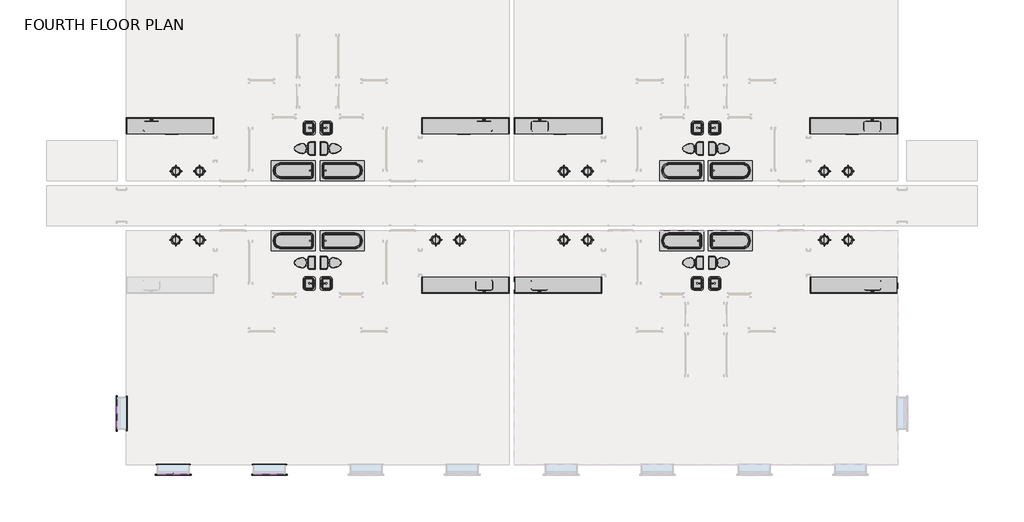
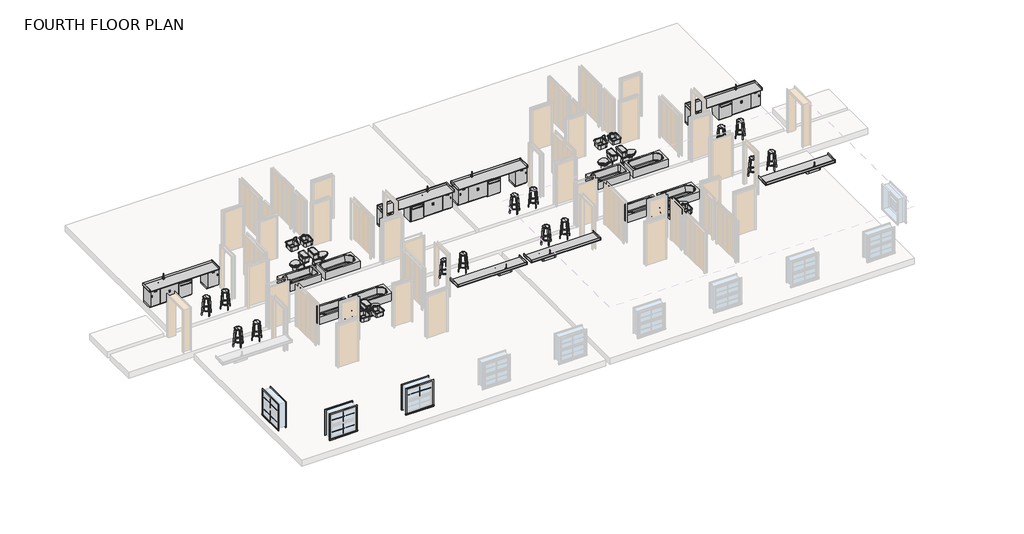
# One storey, part 2 of 3: 33 furniture elements, 31 flow terminals, 15 proxies.
"""IFC4 building model written with IfcOpenShell, lengths in millimetres."""

from ifc_helpers import new_model, si_unit, origin, place, context, project, spatial, transform, mapped, element, save
from components import k2515_dishwasher_household_k2515_dishwasher_household_cf2658f5, k2515_dishwasher_household_k2515_dishwasher_household_46c228bc, muntin_pattern_2x2_muntin_pattern_2x2_770224b8, muntin_pattern_2x2_muntin_pattern_2x2_cf99dd86, trim_window_exterior_flat_with_sill_ac84ebb5, trim_window_interior_flat_picture_frame_caf2db4f, lsy_sink_1a_065a4558, lsy_sink_1a_83b20bf5, flow_terminal_62a433f7, flow_terminal_4d0de4d3, toilet_domestic_3d_toilet_domestic_3d_f7549cf7, toilet_domestic_3d_toilet_domestic_3d_183bbd19, toilet_domestic_3d_toilet_domestic_3d_a08e12bc, toilet_domestic_3d_toilet_domestic_3d_5530cc89, tub_rectangular_3d_tub_rectangular_3d_2253513b, tub_rectangular_3d_tub_rectangular_3d_4e1d8e59, hb12_hb12_18_68083de8, hb12_hb12_18_c50c6706, hb12_hb12_21_dfdbf895, hb12_hb12_21_72806c5e, lsy_bench_top_24dx36h_e849d271, lsy_bench_top_24dx36h_08832318, lsy_bench_top_24dx36h_2ddf329b, lsy_bench_top_24dx36h_1d034a2a, lab_stool_lab_stool_8e3c4d68, lab_stool_lab_stool_061d08b2, sb02_sb2_36_93bd8c5c, sb02_sb2_36_312036f5

model = new_model("IFC4")

# Units and contexts
model_context = context("Model", 3, world=origin())
ifc_project = project(units=[si_unit("LENGTHUNIT", "METRE", prefix="MILLI")], contexts=[model_context])

# Site, building, storey
site = spatial("IfcSite", under=ifc_project)
building = spatial("IfcBuilding", under=site)
storey = spatial("IfcBuildingStorey", under=building, Name="FOURTH FLOOR PLAN", Elevation=8534.4)

# Proxies
placement = place(None, origin())
k2515_dishwasher_household_k2515_dishwasher_household_shape = k2515_dishwasher_household_k2515_dishwasher_household_cf2658f5(model_context)
element("IfcBuildingElementProxy", 1, Name="K2515 - Dishwasher, Household : K2515 - Dishwasher, Household", ObjectType="K2515 - Dishwasher, Household : K2515 - Dishwasher, Household", at=placement, inside=storey, context=model_context, shape_type="MappedRepresentation", body=[
    mapped(k2515_dishwasher_household_k2515_dishwasher_household_shape, transform((-3453.9790125, 8530.5137881, 8534.4), x_axis=(1.0, 0.0, 0.0), y_axis=(0.0, 1.0, 0.0), z_axis=(0.0, 0.0, 1.0))),
])
element("IfcBuildingElementProxy", 2, Name="K2515 - Dishwasher, Household : K2515 - Dishwasher, Household", ObjectType="K2515 - Dishwasher, Household : K2515 - Dishwasher, Household", at=placement, inside=storey, context=model_context, shape_type="MappedRepresentation", body=[
    mapped(k2515_dishwasher_household_k2515_dishwasher_household_shape, transform((11370.4209875, 8530.5137881, 8534.4), x_axis=(1.0, 0.0, 0.0), y_axis=(0.0, 1.0, 0.0), z_axis=(0.0, 0.0, 1.0))),
])
k2515_dishwasher_household_k2515_dishwasher_household_2_shape = k2515_dishwasher_household_k2515_dishwasher_household_46c228bc(model_context)
element("IfcBuildingElementProxy", 3, Name="K2515 - Dishwasher, Household : K2515 - Dishwasher, Household", ObjectType="K2515 - Dishwasher, Household : K2515 - Dishwasher, Household", at=placement, inside=storey, context=model_context, shape_type="MappedRepresentation", body=[
    mapped(k2515_dishwasher_household_k2515_dishwasher_household_2_shape, transform((7690.5959875, 8530.5137881, 8534.4), x_axis=(-1.0, 0.0, 0.0), y_axis=(0.0, -1.0, 0.0), z_axis=(0.0, 0.0, 1.0))),
])
element("IfcBuildingElementProxy", 4, Name="K2515 - Dishwasher, Household : K2515 - Dishwasher, Household", ObjectType="K2515 - Dishwasher, Household : K2515 - Dishwasher, Household", at=placement, inside=storey, context=model_context, shape_type="MappedRepresentation", body=[
    mapped(k2515_dishwasher_household_k2515_dishwasher_household_2_shape, transform((22514.9959875, 8530.5137881, 8534.4), x_axis=(-1.0, 0.0, 0.0), y_axis=(0.0, -1.0, 0.0), z_axis=(0.0, 0.0, 1.0))),
])
muntin_pattern_2x2_muntin_pattern_2x2_shape = muntin_pattern_2x2_muntin_pattern_2x2_770224b8(model_context)
element("IfcBuildingElementProxy", 5, Name="Muntin Pattern_2x2 : Muntin Pattern_2x2", ObjectType="Muntin Pattern_2x2 : Muntin Pattern_2x2", at=placement, inside=storey, context=model_context, shape_type="MappedRepresentation", body=[
    mapped(muntin_pattern_2x2_muntin_pattern_2x2_shape, transform((-5537.3665125, -2431.3796179, 10128.25), x_axis=(0.0, -1.0, 0.0), y_axis=(1.0, 0.0, 0.0), z_axis=(0.0, 0.0, 1.0))),
])
element("IfcBuildingElementProxy", 6, Name="Muntin Pattern_2x2 : Muntin Pattern_2x2", ObjectType="Muntin Pattern_2x2 : Muntin Pattern_2x2", at=placement, inside=storey, context=model_context, shape_type="MappedRepresentation", body=[
    mapped(muntin_pattern_2x2_muntin_pattern_2x2_shape, transform((-3399.0477625, -4742.0612119, 10128.25), x_axis=(1.0, 0.0, 0.0), y_axis=(0.0, 1.0, 0.0), z_axis=(0.0, 0.0, 1.0))),
])
element("IfcBuildingElementProxy", 7, Name="Muntin Pattern_2x2 : Muntin Pattern_2x2", ObjectType="Muntin Pattern_2x2 : Muntin Pattern_2x2", at=placement, inside=storey, context=model_context, shape_type="MappedRepresentation", body=[
    mapped(muntin_pattern_2x2_muntin_pattern_2x2_shape, transform((271.9647375, -4742.0612119, 10128.25), x_axis=(1.0, 0.0, 0.0), y_axis=(0.0, 1.0, 0.0), z_axis=(0.0, 0.0, 1.0))),
])
muntin_pattern_2x2_muntin_pattern_2x2_2_shape = muntin_pattern_2x2_muntin_pattern_2x2_cf99dd86(model_context)
element("IfcBuildingElementProxy", 8, Name="Muntin Pattern_2x2 : Muntin Pattern_2x2", ObjectType="Muntin Pattern_2x2 : Muntin Pattern_2x2", at=placement, inside=storey, context=model_context, shape_type="MappedRepresentation", body=[
    mapped(muntin_pattern_2x2_muntin_pattern_2x2_2_shape, transform((-5537.3665125, -2431.3796179, 9518.65), x_axis=(0.0, -1.0, 0.0), y_axis=(1.0, 0.0, 0.0), z_axis=(0.0, 0.0, 1.0))),
])
element("IfcBuildingElementProxy", 9, Name="Muntin Pattern_2x2 : Muntin Pattern_2x2", ObjectType="Muntin Pattern_2x2 : Muntin Pattern_2x2", at=placement, inside=storey, context=model_context, shape_type="MappedRepresentation", body=[
    mapped(muntin_pattern_2x2_muntin_pattern_2x2_2_shape, transform((-3399.0477625, -4742.0612119, 9518.65), x_axis=(1.0, 0.0, 0.0), y_axis=(0.0, 1.0, 0.0), z_axis=(0.0, 0.0, 1.0))),
])
trim_window_exterior_flat_with_sill_shape = trim_window_exterior_flat_with_sill_ac84ebb5(model_context)
element("IfcBuildingElementProxy", 10, Name="Trim-Window-Exterior-Flat : with Sill", ObjectType="Trim-Window-Exterior-Flat : with Sill", at=placement, inside=storey, context=model_context, shape_type="MappedRepresentation", body=[
    mapped(trim_window_exterior_flat_with_sill_shape, transform((-5546.8915125, -2431.3796179, 10668.0), x_axis=(0.0, 1.0, 0.0), y_axis=(0.0, 0.0, -1.0), z_axis=(-1.0, 0.0, 0.0))),
])
element("IfcBuildingElementProxy", 11, Name="Trim-Window-Exterior-Flat : with Sill", ObjectType="Trim-Window-Exterior-Flat : with Sill", at=placement, inside=storey, context=model_context, shape_type="MappedRepresentation", body=[
    mapped(trim_window_exterior_flat_with_sill_shape, transform((-3399.0477625, -4751.5862119, 10668.0), x_axis=(-1.0, 0.0, 0.0), y_axis=(0.0, 0.0, -1.0), z_axis=(0.0, -1.0, 0.0))),
])
element("IfcBuildingElementProxy", 12, Name="Trim-Window-Exterior-Flat : with Sill", ObjectType="Trim-Window-Exterior-Flat : with Sill", at=placement, inside=storey, context=model_context, shape_type="MappedRepresentation", body=[
    mapped(trim_window_exterior_flat_with_sill_shape, transform((271.9647375, -4751.5862119, 10668.0), x_axis=(-1.0, 0.0, 0.0), y_axis=(0.0, 0.0, -1.0), z_axis=(0.0, -1.0, 0.0))),
])
trim_window_interior_flat_picture_frame_shape = trim_window_interior_flat_picture_frame_caf2db4f(model_context)
element("IfcBuildingElementProxy", 13, Name="Trim-Window-Interior-Flat : Picture Frame", ObjectType="Trim-Window-Interior-Flat : Picture Frame", at=placement, inside=storey, context=model_context, shape_type="MappedRepresentation", body=[
    mapped(trim_window_interior_flat_picture_frame_shape, transform((-5196.8915125, -2431.3796179, 10668.0), x_axis=(0.0, -1.0, 0.0), y_axis=(0.0, 0.0, -1.0), z_axis=(1.0, 0.0, 0.0))),
])
element("IfcBuildingElementProxy", 14, Name="Trim-Window-Interior-Flat : Picture Frame", ObjectType="Trim-Window-Interior-Flat : Picture Frame", at=placement, inside=storey, context=model_context, shape_type="MappedRepresentation", body=[
    mapped(trim_window_interior_flat_picture_frame_shape, transform((-3399.0477625, -4401.5862119, 10668.0), x_axis=(1.0, 0.0, 0.0), y_axis=(0.0, 0.0, -1.0), z_axis=(0.0, 1.0, 0.0))),
])
element("IfcBuildingElementProxy", 15, Name="Trim-Window-Interior-Flat : Picture Frame", ObjectType="Trim-Window-Interior-Flat : Picture Frame", at=placement, inside=storey, context=model_context, shape_type="MappedRepresentation", body=[
    mapped(trim_window_interior_flat_picture_frame_shape, transform((271.9647375, -4401.5862119, 10668.0), x_axis=(1.0, 0.0, 0.0), y_axis=(0.0, 0.0, -1.0), z_axis=(0.0, 1.0, 0.0))),
])

# Flow terminals
lsy_sink_1a_shape = lsy_sink_1a_065a4558(model_context)
element("IfcFlowTerminal", 16, ObjectType="LSY_Sink_1A : 25\"W x 15\"D", at=placement, inside=storey, context=model_context, shape_type="MappedRepresentation", body=[
    mapped(lsy_sink_1a_shape, transform((-4245.7932531, 8626.5933869, 8496.3), x_axis=(1.0, 0.0, 0.0), y_axis=(0.0, 1.0, 0.0), z_axis=(0.0, 0.0, 1.0))),
])
element("IfcFlowTerminal", 17, ObjectType="LSY_Sink_1A : 25\"W x 15\"D", at=placement, inside=storey, context=model_context, shape_type="MappedRepresentation", body=[
    mapped(lsy_sink_1a_shape, transform((8488.922728, 2373.0341892, 8496.3), x_axis=(-1.0, 0.0, 0.0), y_axis=(0.0, -1.0, 0.0), z_axis=(0.0, 0.0, 1.0))),
])
element("IfcFlowTerminal", 18, ObjectType="LSY_Sink_1A : 25\"W x 15\"D", at=placement, inside=storey, context=model_context, shape_type="MappedRepresentation", body=[
    mapped(lsy_sink_1a_shape, transform((10578.6067469, 8626.5933869, 8496.3), x_axis=(1.0, 0.0, 0.0), y_axis=(0.0, 1.0, 0.0), z_axis=(0.0, 0.0, 1.0))),
])
element("IfcFlowTerminal", 19, ObjectType="LSY_Sink_1A : 25\"W x 15\"D", at=placement, inside=storey, context=model_context, shape_type="MappedRepresentation", body=[
    mapped(lsy_sink_1a_shape, transform((23313.322728, 2373.0341892, 8496.3), x_axis=(-1.0, 0.0, 0.0), y_axis=(0.0, -1.0, 0.0), z_axis=(0.0, 0.0, 1.0))),
])
lsy_sink_1a_2_shape = lsy_sink_1a_83b20bf5(model_context)
element("IfcFlowTerminal", 20, ObjectType="LSY_Sink_1A : 25\"W x 15\"D", at=placement, inside=storey, context=model_context, shape_type="MappedRepresentation", body=[
    mapped(lsy_sink_1a_2_shape, transform((8482.410228, 8626.5933869, 8496.3), x_axis=(-1.0, 0.0, 0.0), y_axis=(0.0, -1.0, 0.0), z_axis=(0.0, 0.0, 1.0))),
])
element("IfcFlowTerminal", 21, ObjectType="LSY_Sink_1A : 25\"W x 15\"D", at=placement, inside=storey, context=model_context, shape_type="MappedRepresentation", body=[
    mapped(lsy_sink_1a_2_shape, transform((10572.0942469, 2373.0341892, 8496.3), x_axis=(1.0, 0.0, 0.0), y_axis=(0.0, 1.0, 0.0), z_axis=(0.0, 0.0, 1.0))),
])
element("IfcFlowTerminal", 22, ObjectType="LSY_Sink_1A : 25\"W x 15\"D", at=placement, inside=storey, context=model_context, shape_type="MappedRepresentation", body=[
    mapped(lsy_sink_1a_2_shape, transform((23306.810228, 8626.5933869, 8496.3), x_axis=(-1.0, 0.0, 0.0), y_axis=(0.0, -1.0, 0.0), z_axis=(0.0, 0.0, 1.0))),
])
flow_terminal_shape = flow_terminal_62a433f7(model_context)
element("IfcFlowTerminal", 23, ObjectType="Sink Vanity-Square : 20\" x 18\"", at=placement, inside=storey, context=model_context, shape_type="MappedRepresentation", body=[
    mapped(flow_terminal_shape, transform((1841.1630863, 2548.3030286, 8534.4), x_axis=(0.0, -1.0, 0.0), y_axis=(1.0, 0.0, 0.0), z_axis=(0.0, 0.0, 1.0))),
])
element("IfcFlowTerminal", 24, ObjectType="Sink Vanity-Square : 20\" x 18\"", at=placement, inside=storey, context=model_context, shape_type="MappedRepresentation", body=[
    mapped(flow_terminal_shape, transform((2395.4538886, 2516.9245475, 8534.4), x_axis=(0.0, 1.0, 0.0), y_axis=(-1.0, 0.0, 0.0), z_axis=(0.0, 0.0, 1.0))),
])
element("IfcFlowTerminal", 25, ObjectType="Sink Vanity-Square : 20\" x 18\"", at=placement, inside=storey, context=model_context, shape_type="MappedRepresentation", body=[
    mapped(flow_terminal_shape, transform((16665.1630863, 2548.3030286, 8534.4), x_axis=(0.0, -1.0, 0.0), y_axis=(1.0, 0.0, 0.0), z_axis=(0.0, 0.0, 1.0))),
])
element("IfcFlowTerminal", 26, ObjectType="Sink Vanity-Square : 20\" x 18\"", at=placement, inside=storey, context=model_context, shape_type="MappedRepresentation", body=[
    mapped(flow_terminal_shape, transform((17219.4538886, 2516.9245475, 8534.4), x_axis=(0.0, 1.0, 0.0), y_axis=(-1.0, 0.0, 0.0), z_axis=(0.0, 0.0, 1.0))),
])
flow_terminal_2_shape = flow_terminal_4d0de4d3(model_context)
element("IfcFlowTerminal", 27, ObjectType="Sink Vanity-Square : 20\" x 18\"", at=placement, inside=storey, context=model_context, shape_type="MappedRepresentation", body=[
    mapped(flow_terminal_2_shape, transform((16665.1630863, 8451.3245475, 8534.4), x_axis=(0.0, 1.0, 0.0), y_axis=(-1.0, 0.0, 0.0), z_axis=(0.0, 0.0, 1.0))),
])
element("IfcFlowTerminal", 28, ObjectType="Sink Vanity-Square : 20\" x 18\"", at=placement, inside=storey, context=model_context, shape_type="MappedRepresentation", body=[
    mapped(flow_terminal_2_shape, transform((17219.4538886, 8482.7030286, 8534.4), x_axis=(0.0, -1.0, 0.0), y_axis=(1.0, 0.0, 0.0), z_axis=(0.0, 0.0, 1.0))),
])
element("IfcFlowTerminal", 29, ObjectType="Sink Vanity-Square : 20\" x 18\"", at=placement, inside=storey, context=model_context, shape_type="MappedRepresentation", body=[
    mapped(flow_terminal_2_shape, transform((1841.1630863, 8451.3245475, 8534.4), x_axis=(0.0, 1.0, 0.0), y_axis=(-1.0, 0.0, 0.0), z_axis=(0.0, 0.0, 1.0))),
])
element("IfcFlowTerminal", 30, ObjectType="Sink Vanity-Square : 20\" x 18\"", at=placement, inside=storey, context=model_context, shape_type="MappedRepresentation", body=[
    mapped(flow_terminal_2_shape, transform((2395.4538886, 8482.7030286, 8534.4), x_axis=(0.0, -1.0, 0.0), y_axis=(1.0, 0.0, 0.0), z_axis=(0.0, 0.0, 1.0))),
])
toilet_domestic_3d_toilet_domestic_3d_shape = toilet_domestic_3d_toilet_domestic_3d_f7549cf7(model_context)
toilet_domestic_3d_toilet_domestic_3d_2_shape = toilet_domestic_3d_toilet_domestic_3d_183bbd19(model_context)
element("IfcFlowTerminal", 31, ObjectType="Toilet-Domestic-3D : Toilet-Domestic-3D", at=placement, inside=storey, context=model_context, shape_type="MappedRepresentation", body=[
    mapped(toilet_domestic_3d_toilet_domestic_3d_shape, transform((1526.6124601, 3320.0137881, 8534.4), x_axis=(0.0, -1.0, 0.0), y_axis=(1.0, 0.0, 0.0), z_axis=(0.0, 0.0, 1.0))),
    mapped(toilet_domestic_3d_toilet_domestic_3d_2_shape, transform((1526.6124601, 3320.0137881, 8534.4), x_axis=(0.0, -1.0, 0.0), y_axis=(1.0, 0.0, 0.0), z_axis=(0.0, 0.0, 1.0))),
])
element("IfcFlowTerminal", 32, ObjectType="Toilet-Domestic-3D : Toilet-Domestic-3D", at=placement, inside=storey, context=model_context, shape_type="MappedRepresentation", body=[
    mapped(toilet_domestic_3d_toilet_domestic_3d_shape, transform((2710.0045148, 3320.0137881, 8534.4), x_axis=(0.0, 1.0, 0.0), y_axis=(-1.0, 0.0, 0.0), z_axis=(0.0, 0.0, 1.0))),
    mapped(toilet_domestic_3d_toilet_domestic_3d_2_shape, transform((2710.0045148, 3320.0137881, 8534.4), x_axis=(0.0, 1.0, 0.0), y_axis=(-1.0, 0.0, 0.0), z_axis=(0.0, 0.0, 1.0))),
])
element("IfcFlowTerminal", 33, ObjectType="Toilet-Domestic-3D : Toilet-Domestic-3D", at=placement, inside=storey, context=model_context, shape_type="MappedRepresentation", body=[
    mapped(toilet_domestic_3d_toilet_domestic_3d_shape, transform((16350.6124601, 3320.0137881, 8534.4), x_axis=(0.0, -1.0, 0.0), y_axis=(1.0, 0.0, 0.0), z_axis=(0.0, 0.0, 1.0))),
    mapped(toilet_domestic_3d_toilet_domestic_3d_2_shape, transform((16350.6124601, 3320.0137881, 8534.4), x_axis=(0.0, -1.0, 0.0), y_axis=(1.0, 0.0, 0.0), z_axis=(0.0, 0.0, 1.0))),
])
element("IfcFlowTerminal", 34, ObjectType="Toilet-Domestic-3D : Toilet-Domestic-3D", at=placement, inside=storey, context=model_context, shape_type="MappedRepresentation", body=[
    mapped(toilet_domestic_3d_toilet_domestic_3d_shape, transform((17534.0045148, 3320.0137881, 8534.4), x_axis=(0.0, 1.0, 0.0), y_axis=(-1.0, 0.0, 0.0), z_axis=(0.0, 0.0, 1.0))),
    mapped(toilet_domestic_3d_toilet_domestic_3d_2_shape, transform((17534.0045148, 3320.0137881, 8534.4), x_axis=(0.0, 1.0, 0.0), y_axis=(-1.0, 0.0, 0.0), z_axis=(0.0, 0.0, 1.0))),
])
toilet_domestic_3d_toilet_domestic_3d_3_shape = toilet_domestic_3d_toilet_domestic_3d_a08e12bc(model_context)
toilet_domestic_3d_toilet_domestic_3d_4_shape = toilet_domestic_3d_toilet_domestic_3d_5530cc89(model_context)
element("IfcFlowTerminal", 35, ObjectType="Toilet-Domestic-3D : Toilet-Domestic-3D", at=placement, inside=storey, context=model_context, shape_type="MappedRepresentation", body=[
    mapped(toilet_domestic_3d_toilet_domestic_3d_3_shape, transform((16350.6124601, 7679.6137881, 8534.4), x_axis=(0.0, 1.0, 0.0), y_axis=(-1.0, 0.0, 0.0), z_axis=(0.0, 0.0, 1.0))),
    mapped(toilet_domestic_3d_toilet_domestic_3d_4_shape, transform((16350.6124601, 7679.6137881, 8534.4), x_axis=(0.0, 1.0, 0.0), y_axis=(-1.0, 0.0, 0.0), z_axis=(0.0, 0.0, 1.0))),
])
element("IfcFlowTerminal", 36, ObjectType="Toilet-Domestic-3D : Toilet-Domestic-3D", at=placement, inside=storey, context=model_context, shape_type="MappedRepresentation", body=[
    mapped(toilet_domestic_3d_toilet_domestic_3d_3_shape, transform((17534.0045148, 7679.6137881, 8534.4), x_axis=(0.0, -1.0, 0.0), y_axis=(1.0, 0.0, 0.0), z_axis=(0.0, 0.0, 1.0))),
    mapped(toilet_domestic_3d_toilet_domestic_3d_4_shape, transform((17534.0045148, 7679.6137881, 8534.4), x_axis=(0.0, -1.0, 0.0), y_axis=(1.0, 0.0, 0.0), z_axis=(0.0, 0.0, 1.0))),
])
element("IfcFlowTerminal", 37, ObjectType="Toilet-Domestic-3D : Toilet-Domestic-3D", at=placement, inside=storey, context=model_context, shape_type="MappedRepresentation", body=[
    mapped(toilet_domestic_3d_toilet_domestic_3d_3_shape, transform((1526.6124601, 7679.6137881, 8534.4), x_axis=(0.0, 1.0, 0.0), y_axis=(-1.0, 0.0, 0.0), z_axis=(0.0, 0.0, 1.0))),
    mapped(toilet_domestic_3d_toilet_domestic_3d_4_shape, transform((1526.6124601, 7679.6137881, 8534.4), x_axis=(0.0, 1.0, 0.0), y_axis=(-1.0, 0.0, 0.0), z_axis=(0.0, 0.0, 1.0))),
])
element("IfcFlowTerminal", 38, ObjectType="Toilet-Domestic-3D : Toilet-Domestic-3D", at=placement, inside=storey, context=model_context, shape_type="MappedRepresentation", body=[
    mapped(toilet_domestic_3d_toilet_domestic_3d_3_shape, transform((2710.0045148, 7679.6137881, 8534.4), x_axis=(0.0, -1.0, 0.0), y_axis=(1.0, 0.0, 0.0), z_axis=(0.0, 0.0, 1.0))),
    mapped(toilet_domestic_3d_toilet_domestic_3d_4_shape, transform((2710.0045148, 7679.6137881, 8534.4), x_axis=(0.0, -1.0, 0.0), y_axis=(1.0, 0.0, 0.0), z_axis=(0.0, 0.0, 1.0))),
])
tub_rectangular_3d_tub_rectangular_3d_shape = tub_rectangular_3d_tub_rectangular_3d_2253513b(model_context)
element("IfcFlowTerminal", 39, ObjectType="Tub-Rectangular-3D : Tub-Rectangular-3D", at=placement, inside=storey, context=model_context, shape_type="MappedRepresentation", body=[
    mapped(tub_rectangular_3d_tub_rectangular_3d_shape, transform((3322.7364562, 4636.2137881, 8534.4), x_axis=(1.0, 0.0, 0.0), y_axis=(0.0, 1.0, 0.0), z_axis=(0.0, 0.0, 1.0))),
])
element("IfcFlowTerminal", 40, ObjectType="Tub-Rectangular-3D : Tub-Rectangular-3D", at=placement, inside=storey, context=model_context, shape_type="MappedRepresentation", body=[
    mapped(tub_rectangular_3d_tub_rectangular_3d_shape, transform((18146.7364562, 4636.2137881, 8534.4), x_axis=(1.0, 0.0, 0.0), y_axis=(0.0, 1.0, 0.0), z_axis=(0.0, 0.0, 1.0))),
])
element("IfcFlowTerminal", 41, ObjectType="Tub-Rectangular-3D : Tub-Rectangular-3D", at=placement, inside=storey, context=model_context, shape_type="MappedRepresentation", body=[
    mapped(tub_rectangular_3d_tub_rectangular_3d_shape, transform((15737.8805188, 6363.4137881, 8534.4), x_axis=(-1.0, 0.0, 0.0), y_axis=(0.0, -1.0, 0.0), z_axis=(0.0, 0.0, 1.0))),
])
element("IfcFlowTerminal", 42, ObjectType="Tub-Rectangular-3D : Tub-Rectangular-3D", at=placement, inside=storey, context=model_context, shape_type="MappedRepresentation", body=[
    mapped(tub_rectangular_3d_tub_rectangular_3d_shape, transform((913.8805188, 6363.4137881, 8534.4), x_axis=(-1.0, 0.0, 0.0), y_axis=(0.0, -1.0, 0.0), z_axis=(0.0, 0.0, 1.0))),
])
tub_rectangular_3d_tub_rectangular_3d_2_shape = tub_rectangular_3d_tub_rectangular_3d_4e1d8e59(model_context)
element("IfcFlowTerminal", 43, ObjectType="Tub-Rectangular-3D : Tub-Rectangular-3D", at=placement, inside=storey, context=model_context, shape_type="MappedRepresentation", body=[
    mapped(tub_rectangular_3d_tub_rectangular_3d_2_shape, transform((910.7055188, 4636.2137881, 8534.4), x_axis=(-1.0, 0.0, 0.0), y_axis=(0.0, -1.0, 0.0), z_axis=(0.0, 0.0, 1.0))),
])
element("IfcFlowTerminal", 44, ObjectType="Tub-Rectangular-3D : Tub-Rectangular-3D", at=placement, inside=storey, context=model_context, shape_type="MappedRepresentation", body=[
    mapped(tub_rectangular_3d_tub_rectangular_3d_2_shape, transform((15738.2805188, 4636.2137881, 8534.4), x_axis=(-1.0, 0.0, 0.0), y_axis=(0.0, -1.0, 0.0), z_axis=(0.0, 0.0, 1.0))),
])
element("IfcFlowTerminal", 45, ObjectType="Tub-Rectangular-3D : Tub-Rectangular-3D", at=placement, inside=storey, context=model_context, shape_type="MappedRepresentation", body=[
    mapped(tub_rectangular_3d_tub_rectangular_3d_2_shape, transform((18146.7364562, 6363.4137881, 8534.4), x_axis=(1.0, 0.0, 0.0), y_axis=(0.0, 1.0, 0.0), z_axis=(0.0, 0.0, 1.0))),
])
element("IfcFlowTerminal", 46, ObjectType="Tub-Rectangular-3D : Tub-Rectangular-3D", at=placement, inside=storey, context=model_context, shape_type="MappedRepresentation", body=[
    mapped(tub_rectangular_3d_tub_rectangular_3d_2_shape, transform((3322.7364562, 6363.4137881, 8534.4), x_axis=(1.0, 0.0, 0.0), y_axis=(0.0, 1.0, 0.0), z_axis=(0.0, 0.0, 1.0))),
])

# Furniture
hb12_hb12_18_shape = hb12_hb12_18_68083de8(model_context)
element("IfcFurniture", 47, ObjectType="HB12 : HB12-18", at=placement, inside=storey, context=model_context, shape_type="MappedRepresentation", body=[
    mapped(hb12_hb12_18_shape, transform((9119.6582825, 8848.0137881, 8534.4), x_axis=(1.0, 0.0, 0.0), y_axis=(0.0, 1.0, 0.0), z_axis=(0.0, 0.0, 1.0))),
])
element("IfcFurniture", 48, ObjectType="HB12 : HB12-18", at=placement, inside=storey, context=model_context, shape_type="MappedRepresentation", body=[
    mapped(hb12_hb12_18_shape, transform((23944.0582825, 8848.0137881, 8534.4), x_axis=(1.0, 0.0, 0.0), y_axis=(0.0, 1.0, 0.0), z_axis=(0.0, 0.0, 1.0))),
])
hb12_hb12_18_2_shape = hb12_hb12_18_c50c6706(model_context)
element("IfcFurniture", 49, ObjectType="HB12 : HB12-18", at=placement, inside=storey, context=model_context, shape_type="MappedRepresentation", body=[
    mapped(hb12_hb12_18_2_shape, transform((-4883.0413076, 8848.0137881, 8534.4), x_axis=(-1.0, 0.0, 0.0), y_axis=(0.0, -1.0, 0.0), z_axis=(0.0, 0.0, 1.0))),
])
element("IfcFurniture", 50, ObjectType="HB12 : HB12-18", at=placement, inside=storey, context=model_context, shape_type="MappedRepresentation", body=[
    mapped(hb12_hb12_18_2_shape, transform((9941.3586924, 8848.0137881, 8534.4), x_axis=(-1.0, 0.0, 0.0), y_axis=(0.0, -1.0, 0.0), z_axis=(0.0, 0.0, 1.0))),
])
hb12_hb12_21_shape = hb12_hb12_21_dfdbf895(model_context)
element("IfcFurniture", 51, ObjectType="HB12 : HB12-21", at=placement, inside=storey, context=model_context, shape_type="MappedRepresentation", body=[
    mapped(hb12_hb12_21_shape, transform((-2140.8042175, 8848.0137881, 8534.4), x_axis=(1.0, 0.0, 0.0), y_axis=(0.0, 1.0, 0.0), z_axis=(0.0, 0.0, 1.0))),
])
element("IfcFurniture", 52, ObjectType="HB12 : HB12-21", at=placement, inside=storey, context=model_context, shape_type="MappedRepresentation", body=[
    mapped(hb12_hb12_21_shape, transform((12683.5957825, 8848.0137881, 8534.4), x_axis=(1.0, 0.0, 0.0), y_axis=(0.0, 1.0, 0.0), z_axis=(0.0, 0.0, 1.0))),
])
hb12_hb12_21_2_shape = hb12_hb12_21_72806c5e(model_context)
element("IfcFurniture", 53, ObjectType="HB12 : HB12-21", at=placement, inside=storey, context=model_context, shape_type="MappedRepresentation", body=[
    mapped(hb12_hb12_21_2_shape, transform((6377.4211924, 8848.0137881, 8534.4), x_axis=(-1.0, 0.0, 0.0), y_axis=(0.0, -1.0, 0.0), z_axis=(0.0, 0.0, 1.0))),
])
element("IfcFurniture", 54, ObjectType="HB12 : HB12-21", at=placement, inside=storey, context=model_context, shape_type="MappedRepresentation", body=[
    mapped(hb12_hb12_21_2_shape, transform((21201.8211924, 8848.0137881, 8534.4), x_axis=(-1.0, 0.0, 0.0), y_axis=(0.0, -1.0, 0.0), z_axis=(0.0, 0.0, 1.0))),
])
lsy_bench_top_24dx36h_shape = lsy_bench_top_24dx36h_e849d271(model_context)
element("IfcFurniture", 55, ObjectType="LSY_Bench Top : 24Dx36H", at=placement, inside=storey, context=model_context, shape_type="MappedRepresentation", body=[
    mapped(lsy_bench_top_24dx36h_shape, transform((-3049.3163076, 9463.0137881, 8521.7), x_axis=(-1.0, 0.0, 0.0), y_axis=(0.0, -1.0, 0.0), z_axis=(0.0, 0.0, 1.0))),
])
element("IfcFurniture", 56, ObjectType="LSY_Bench Top : 24Dx36H", at=placement, inside=storey, context=model_context, shape_type="MappedRepresentation", body=[
    mapped(lsy_bench_top_24dx36h_shape, transform((11775.0836924, 9463.0137881, 8521.7), x_axis=(-1.0, 0.0, 0.0), y_axis=(0.0, -1.0, 0.0), z_axis=(0.0, 0.0, 1.0))),
])
lsy_bench_top_24dx36h_2_shape = lsy_bench_top_24dx36h_08832318(model_context)
element("IfcFurniture", 57, ObjectType="LSY_Bench Top : 24Dx36H", at=placement, inside=storey, context=model_context, shape_type="MappedRepresentation", body=[
    mapped(lsy_bench_top_24dx36h_2_shape, transform((7285.9332825, 9463.0137881, 8521.7), x_axis=(1.0, 0.0, 0.0), y_axis=(0.0, 1.0, 0.0), z_axis=(0.0, 0.0, 1.0))),
])
element("IfcFurniture", 58, ObjectType="LSY_Bench Top : 24Dx36H", at=placement, inside=storey, context=model_context, shape_type="MappedRepresentation", body=[
    mapped(lsy_bench_top_24dx36h_2_shape, transform((22110.3332825, 9463.0137881, 8521.7), x_axis=(1.0, 0.0, 0.0), y_axis=(0.0, 1.0, 0.0), z_axis=(0.0, 0.0, 1.0))),
])
lsy_bench_top_24dx36h_3_shape = lsy_bench_top_24dx36h_2ddf329b(model_context)
element("IfcFurniture", 59, ObjectType="LSY_Bench Top : 24Dx36H", at=placement, inside=storey, context=model_context, shape_type="MappedRepresentation", body=[
    mapped(lsy_bench_top_24dx36h_3_shape, transform((11768.5711924, 1536.6137881, 8521.7), x_axis=(-1.0, 0.0, 0.0), y_axis=(0.0, -1.0, 0.0), z_axis=(0.0, 0.0, 1.0))),
])
lsy_bench_top_24dx36h_4_shape = lsy_bench_top_24dx36h_1d034a2a(model_context)
element("IfcFurniture", 60, ObjectType="LSY_Bench Top : 24Dx36H", at=placement, inside=storey, context=model_context, shape_type="MappedRepresentation", body=[
    mapped(lsy_bench_top_24dx36h_4_shape, transform((7292.4457825, 1536.6137881, 8521.7), x_axis=(1.0, 0.0, 0.0), y_axis=(0.0, 1.0, 0.0), z_axis=(0.0, 0.0, 1.0))),
])
element("IfcFurniture", 61, ObjectType="LSY_Bench Top : 24Dx36H", at=placement, inside=storey, context=model_context, shape_type="MappedRepresentation", body=[
    mapped(lsy_bench_top_24dx36h_4_shape, transform((22116.8457825, 1536.6137881, 8521.7), x_axis=(1.0, 0.0, 0.0), y_axis=(0.0, 1.0, 0.0), z_axis=(0.0, 0.0, 1.0))),
])
lab_stool_lab_stool_shape = lab_stool_lab_stool_8e3c4d68(model_context)
element("IfcFurniture", 62, ObjectType="Lab Stool : Lab Stool", at=placement, inside=storey, context=model_context, shape_type="MappedRepresentation", body=[
    mapped(lab_stool_lab_stool_shape, transform((-3297.4124798, 6814.2676792, 8534.4), x_axis=(-1.0, 0.0, 0.0), y_axis=(0.0, -1.0, 0.0), z_axis=(0.0, 0.0, 1.0))),
])
element("IfcFurniture", 63, ObjectType="Lab Stool : Lab Stool", at=placement, inside=storey, context=model_context, shape_type="MappedRepresentation", body=[
    mapped(lab_stool_lab_stool_shape, transform((-2394.2040125, 4189.2137881, 8534.4), x_axis=(1.0, 0.0, 0.0), y_axis=(0.0, 1.0, 0.0), z_axis=(0.0, 0.0, 1.0))),
])
element("IfcFurniture", 64, ObjectType="Lab Stool : Lab Stool", at=placement, inside=storey, context=model_context, shape_type="MappedRepresentation", body=[
    mapped(lab_stool_lab_stool_shape, transform((7534.0209875, 4189.2137881, 8534.4), x_axis=(1.0, 0.0, 0.0), y_axis=(0.0, 1.0, 0.0), z_axis=(0.0, 0.0, 1.0))),
])
element("IfcFurniture", 65, ObjectType="Lab Stool : Lab Stool", at=placement, inside=storey, context=model_context, shape_type="MappedRepresentation", body=[
    mapped(lab_stool_lab_stool_shape, transform((11516.1875202, 6814.2676792, 8534.4), x_axis=(-1.0, 0.0, 0.0), y_axis=(0.0, -1.0, 0.0), z_axis=(0.0, 0.0, 1.0))),
])
element("IfcFurniture", 66, ObjectType="Lab Stool : Lab Stool", at=placement, inside=storey, context=model_context, shape_type="MappedRepresentation", body=[
    mapped(lab_stool_lab_stool_shape, transform((12419.3959875, 4189.2137881, 8534.4), x_axis=(1.0, 0.0, 0.0), y_axis=(0.0, 1.0, 0.0), z_axis=(0.0, 0.0, 1.0))),
])
element("IfcFurniture", 67, ObjectType="Lab Stool : Lab Stool", at=placement, inside=storey, context=model_context, shape_type="MappedRepresentation", body=[
    mapped(lab_stool_lab_stool_shape, transform((21466.0294547, 6814.2676792, 8534.4), x_axis=(-1.0, 0.0, 0.0), y_axis=(0.0, -1.0, 0.0), z_axis=(0.0, 0.0, 1.0))),
])
element("IfcFurniture", 68, ObjectType="Lab Stool : Lab Stool", at=placement, inside=storey, context=model_context, shape_type="MappedRepresentation", body=[
    mapped(lab_stool_lab_stool_shape, transform((22369.2209875, 4189.2137881, 8534.4), x_axis=(1.0, 0.0, 0.0), y_axis=(0.0, 1.0, 0.0), z_axis=(0.0, 0.0, 1.0))),
])
lab_stool_lab_stool_2_shape = lab_stool_lab_stool_061d08b2(model_context)
element("IfcFurniture", 69, ObjectType="Lab Stool : Lab Stool", at=placement, inside=storey, context=model_context, shape_type="MappedRepresentation", body=[
    mapped(lab_stool_lab_stool_2_shape, transform((-2394.2124798, 6814.2676792, 8534.4), x_axis=(1.0, 0.0, 0.0), y_axis=(0.0, 1.0, 0.0), z_axis=(0.0, 0.0, 1.0))),
])
element("IfcFurniture", 70, ObjectType="Lab Stool : Lab Stool", at=placement, inside=storey, context=model_context, shape_type="MappedRepresentation", body=[
    mapped(lab_stool_lab_stool_2_shape, transform((-3297.4040125, 4189.2137881, 8534.4), x_axis=(-1.0, 0.0, 0.0), y_axis=(0.0, -1.0, 0.0), z_axis=(0.0, 0.0, 1.0))),
])
element("IfcFurniture", 71, ObjectType="Lab Stool : Lab Stool", at=placement, inside=storey, context=model_context, shape_type="MappedRepresentation", body=[
    mapped(lab_stool_lab_stool_2_shape, transform((6630.8209875, 4189.2137881, 8534.4), x_axis=(-1.0, 0.0, 0.0), y_axis=(0.0, -1.0, 0.0), z_axis=(0.0, 0.0, 1.0))),
])
element("IfcFurniture", 72, ObjectType="Lab Stool : Lab Stool", at=placement, inside=storey, context=model_context, shape_type="MappedRepresentation", body=[
    mapped(lab_stool_lab_stool_2_shape, transform((12419.3875202, 6814.2676792, 8534.4), x_axis=(1.0, 0.0, 0.0), y_axis=(0.0, 1.0, 0.0), z_axis=(0.0, 0.0, 1.0))),
])
element("IfcFurniture", 73, ObjectType="Lab Stool : Lab Stool", at=placement, inside=storey, context=model_context, shape_type="MappedRepresentation", body=[
    mapped(lab_stool_lab_stool_2_shape, transform((11516.1959875, 4189.2137881, 8534.4), x_axis=(-1.0, 0.0, 0.0), y_axis=(0.0, -1.0, 0.0), z_axis=(0.0, 0.0, 1.0))),
])
element("IfcFurniture", 74, ObjectType="Lab Stool : Lab Stool", at=placement, inside=storey, context=model_context, shape_type="MappedRepresentation", body=[
    mapped(lab_stool_lab_stool_2_shape, transform((22369.2294547, 6814.2676792, 8534.4), x_axis=(1.0, 0.0, 0.0), y_axis=(0.0, 1.0, 0.0), z_axis=(0.0, 0.0, 1.0))),
])
element("IfcFurniture", 75, ObjectType="Lab Stool : Lab Stool", at=placement, inside=storey, context=model_context, shape_type="MappedRepresentation", body=[
    mapped(lab_stool_lab_stool_2_shape, transform((21466.0209875, 4189.2137881, 8534.4), x_axis=(-1.0, 0.0, 0.0), y_axis=(0.0, -1.0, 0.0), z_axis=(0.0, 0.0, 1.0))),
])
sb02_sb2_36_shape = sb02_sb2_36_93bd8c5c(model_context)
element("IfcFurniture", 76, ObjectType="SB02 : SB2-36", at=placement, inside=storey, context=model_context, shape_type="MappedRepresentation", body=[
    mapped(sb02_sb2_36_shape, transform((-4234.7167175, 8848.2137881, 8534.4), x_axis=(1.0, 0.0, 0.0), y_axis=(0.0, 1.0, 0.0), z_axis=(0.0, 0.0, 1.0))),
])
element("IfcFurniture", 77, ObjectType="SB02 : SB2-36", at=placement, inside=storey, context=model_context, shape_type="MappedRepresentation", body=[
    mapped(sb02_sb2_36_shape, transform((10589.6832825, 8848.2137881, 8534.4), x_axis=(1.0, 0.0, 0.0), y_axis=(0.0, 1.0, 0.0), z_axis=(0.0, 0.0, 1.0))),
])
sb02_sb2_36_2_shape = sb02_sb2_36_312036f5(model_context)
element("IfcFurniture", 78, ObjectType="SB02 : SB2-36", at=placement, inside=storey, context=model_context, shape_type="MappedRepresentation", body=[
    mapped(sb02_sb2_36_2_shape, transform((8471.3336924, 8848.2137881, 8534.4), x_axis=(-1.0, 0.0, 0.0), y_axis=(0.0, -1.0, 0.0), z_axis=(0.0, 0.0, 1.0))),
])
element("IfcFurniture", 79, ObjectType="SB02 : SB2-36", at=placement, inside=storey, context=model_context, shape_type="MappedRepresentation", body=[
    mapped(sb02_sb2_36_2_shape, transform((23295.7336924, 8848.2137881, 8534.4), x_axis=(-1.0, 0.0, 0.0), y_axis=(0.0, -1.0, 0.0), z_axis=(0.0, 0.0, 1.0))),
])

save(model, "model.ifc")
